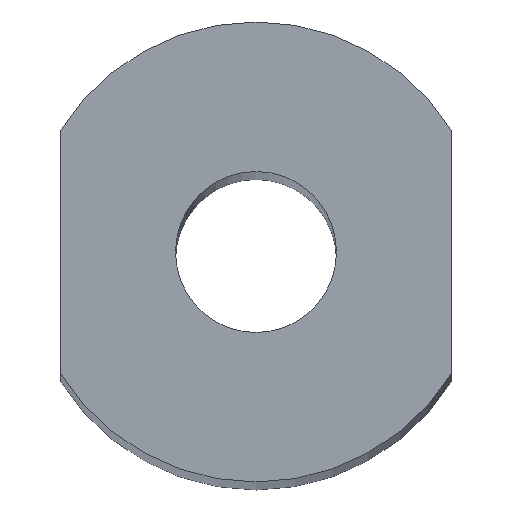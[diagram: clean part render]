
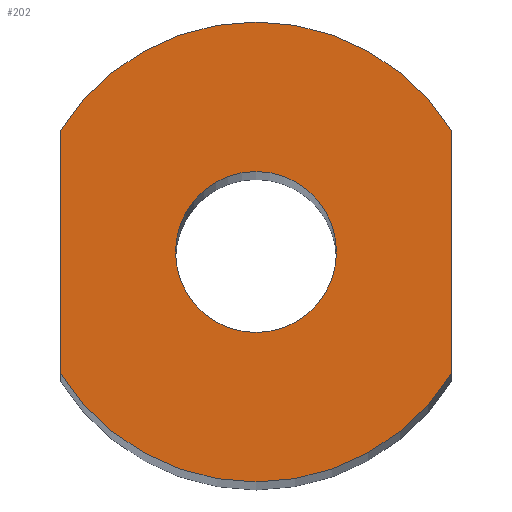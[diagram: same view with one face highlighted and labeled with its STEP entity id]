
A CAD part, top view. The second image highlights one B-rep face of the part: STEP entity #202.
In plain terms, the highlighted planar face has unit normal (0, 0, 1).
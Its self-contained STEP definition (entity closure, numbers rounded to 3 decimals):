
#3 = CIRCLE ( 'NONE', #67, 3.5 ) ;
#15 = DIRECTION ( 'NONE',  ( -1., 0., 0. ) ) ;
#19 = VECTOR ( 'NONE', #116, 1000. ) ;
#22 = CARTESIAN_POINT ( 'NONE',  ( 757.7, 385.9, 200. ) ) ;
#33 = CARTESIAN_POINT ( 'NONE',  ( 757.7, 385.9, 200. ) ) ;
#36 = CARTESIAN_POINT ( 'NONE',  ( 749.2, 380.632, 200. ) ) ;
#38 = LINE ( 'NONE', #36, #192 ) ;
#39 = CARTESIAN_POINT ( 'NONE',  ( 754.2, 385.9, 200. ) ) ;
#45 = ORIENTED_EDGE ( 'NONE', *, *, #206, .F. ) ;
#46 = VERTEX_POINT ( 'NONE', #179 ) ;
#51 = CARTESIAN_POINT ( 'NONE',  ( 757.7, 385.9, 200. ) ) ;
#59 = EDGE_LOOP ( 'NONE', ( #181, #45, #149, #172 ) ) ;
#61 = EDGE_LOOP ( 'NONE', ( #209, #122 ) ) ;
#64 = CIRCLE ( 'NONE', #191, 10. ) ;
#67 = AXIS2_PLACEMENT_3D ( 'NONE', #33, #251, #119 ) ;
#73 = CARTESIAN_POINT ( 'NONE',  ( 749.2, 391.168, 200. ) ) ;
#74 = PLANE ( 'NONE',  #145 ) ;
#77 = CARTESIAN_POINT ( 'NONE',  ( 766.2, 391.168, 200. ) ) ;
#91 = EDGE_CURVE ( 'NONE', #280, #151, #93, .T. ) ;
#92 = FACE_BOUND ( 'NONE', #61, .T. ) ;
#93 = CIRCLE ( 'NONE', #173, 3.5 ) ;
#95 = CARTESIAN_POINT ( 'NONE',  ( 757.7, 385.9, 200. ) ) ;
#101 = CARTESIAN_POINT ( 'NONE',  ( 766.2, 380.632, 200. ) ) ;
#104 = FACE_OUTER_BOUND ( 'NONE', #59, .T. ) ;
#106 = VERTEX_POINT ( 'NONE', #73 ) ;
#107 = AXIS2_PLACEMENT_3D ( 'NONE', #201, #248, #15 ) ;
#108 = EDGE_CURVE ( 'NONE', #151, #280, #3, .T. ) ;
#109 = CIRCLE ( 'NONE', #107, 10. ) ;
#116 = DIRECTION ( 'NONE',  ( 0., -1., 0. ) ) ;
#119 = DIRECTION ( 'NONE',  ( 1., 0., 0. ) ) ;
#120 = EDGE_CURVE ( 'NONE', #136, #46, #109, .T. ) ;
#122 = ORIENTED_EDGE ( 'NONE', *, *, #108, .T. ) ;
#136 = VERTEX_POINT ( 'NONE', #101 ) ;
#141 = CARTESIAN_POINT ( 'NONE',  ( 766.2, 391.168, 200. ) ) ;
#143 = DIRECTION ( 'NONE',  ( 0., 0., -1. ) ) ;
#145 = AXIS2_PLACEMENT_3D ( 'NONE', #51, #157, #250 ) ;
#149 = ORIENTED_EDGE ( 'NONE', *, *, #120, .F. ) ;
#151 = VERTEX_POINT ( 'NONE', #199 ) ;
#157 = DIRECTION ( 'NONE',  ( 0., 0., -1. ) ) ;
#169 = EDGE_CURVE ( 'NONE', #217, #136, #180, .T. ) ;
#172 = ORIENTED_EDGE ( 'NONE', *, *, #169, .F. ) ;
#173 = AXIS2_PLACEMENT_3D ( 'NONE', #95, #244, #267 ) ;
#179 = CARTESIAN_POINT ( 'NONE',  ( 749.2, 380.632, 200. ) ) ;
#180 = LINE ( 'NONE', #77, #19 ) ;
#181 = ORIENTED_EDGE ( 'NONE', *, *, #220, .F. ) ;
#184 = DIRECTION ( 'NONE',  ( 0., 1., 0. ) ) ;
#191 = AXIS2_PLACEMENT_3D ( 'NONE', #22, #143, #273 ) ;
#192 = VECTOR ( 'NONE', #184, 1000. ) ;
#199 = CARTESIAN_POINT ( 'NONE',  ( 761.2, 385.9, 200. ) ) ;
#201 = CARTESIAN_POINT ( 'NONE',  ( 757.7, 385.9, 200. ) ) ;
#202 = ADVANCED_FACE ( 'NONE', ( #92, #104 ), #74, .F. ) ;
#206 = EDGE_CURVE ( 'NONE', #46, #106, #38, .T. ) ;
#209 = ORIENTED_EDGE ( 'NONE', *, *, #91, .T. ) ;
#217 = VERTEX_POINT ( 'NONE', #141 ) ;
#220 = EDGE_CURVE ( 'NONE', #106, #217, #64, .T. ) ;
#244 = DIRECTION ( 'NONE',  ( 0., 0., -1. ) ) ;
#248 = DIRECTION ( 'NONE',  ( 0., 0., -1. ) ) ;
#250 = DIRECTION ( 'NONE',  ( -1., 0., 0. ) ) ;
#251 = DIRECTION ( 'NONE',  ( 0., 0., -1. ) ) ;
#267 = DIRECTION ( 'NONE',  ( 1., 0., 0. ) ) ;
#273 = DIRECTION ( 'NONE',  ( -1., 0., 0. ) ) ;
#280 = VERTEX_POINT ( 'NONE', #39 ) ;
